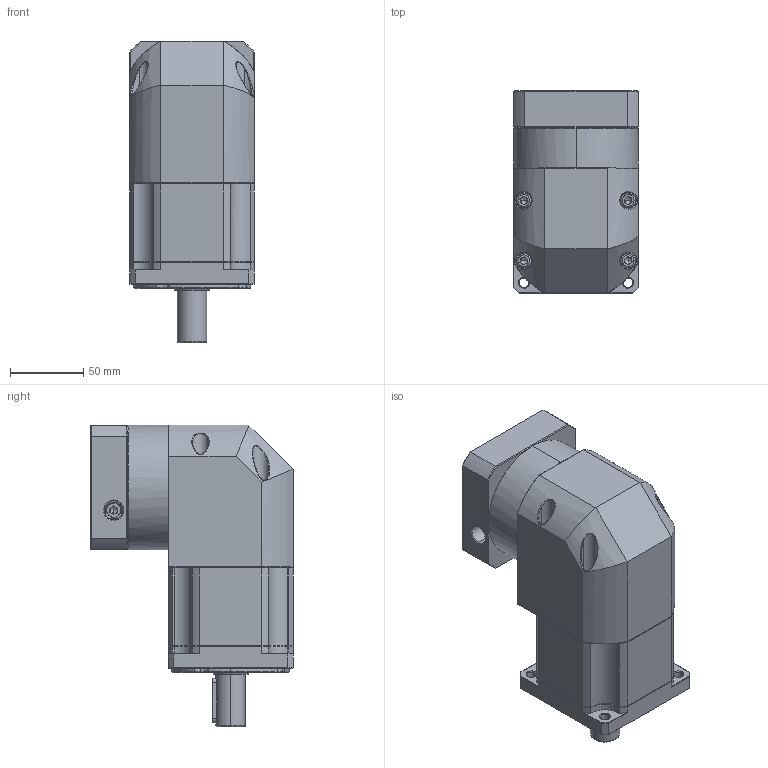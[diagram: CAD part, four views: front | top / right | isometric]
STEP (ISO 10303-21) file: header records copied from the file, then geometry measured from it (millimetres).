
FILE_DESCRIPTION (( 'STEP AP214' ), '1' );
FILE_NAME ('ZBR090-D20-L2-P2-12.7-73-69.6X69.6-M6.step', '2023-08-19T02:02:13', ( '' ), ( '' ), 'SwSTEP 2.0', 'SolidWorks 2016', '' );
FILE_SCHEMA (( 'AUTOMOTIVE_DESIGN' ));
Length unit declared in the file: millimetre
Products named in the file (1): ZBR090-D20-L2-P2-12.7-73-69.6X69.6-M6
Bounding box: 85 x 137.6 x 205.5 mm (x, y, z)
Volume: 1305304.9 mm3; surface area: 135584.6 mm2
Topology: 5 solids, 5 shells, 2401 faces, 6271 edges, 3962 vertices
Faces by surface type: plane 1157, cylinder 447, bspline 421, cone 350, torus 26
Entity records: 129470 total; most frequent: CARTESIAN_POINT 47747, ORIENTED_EDGE 12466, DIRECTION 9904, EDGE_CURVE 6233, VECTOR 3964, LINE 3964, VERTEX_POINT 3962, AXIS2_PLACEMENT_3D 2970
